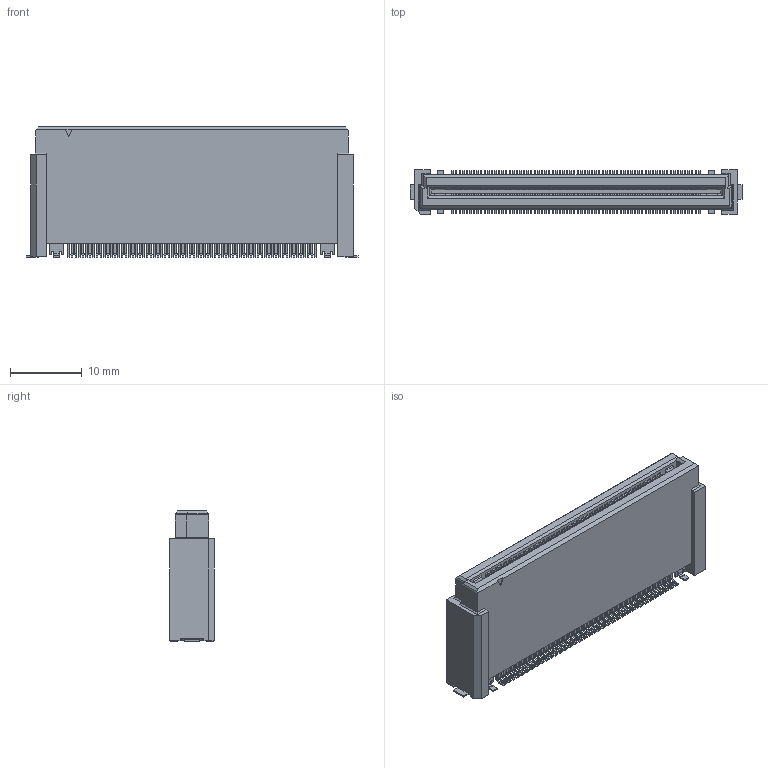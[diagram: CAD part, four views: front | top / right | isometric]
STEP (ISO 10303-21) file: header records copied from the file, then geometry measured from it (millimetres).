
FILE_DESCRIPTION(('Creo Elements/Direct Modeling STEP Export'),'2;1');
FILE_NAME('P3E818_DT10E-140S-20-T.stp','2024-03-12T13:35:49',(''),(''),'Creo Elements/Direct Modeling STEP processor for AP214 (Solid Model)','Creo Elements/Direct Modeling 20.6 25-Mar-2023 (C) Parametric Technology GmbH','');
FILE_SCHEMA(('AUTOMOTIVE_DESIGN { 1 0 10303 214 1 1 1 1 }'));
Products named in the file (2): P3E818_DT10E-140S-20-T
Assembly tree (1 placements, depth 2):
  P3E818_DT10E-140S-20-T
    P3E818_DT10E-140S-20-T
Bounding box: 46.4 x 6.2 x 18.18 mm (x, y, z)
Volume: 3395 mm3; surface area: 2951.8 mm2
Topology: 1 solids, 1 shells, 4355 faces, 12298 edges, 8092 vertices
Faces by surface type: plane 3447, cylinder 900, bspline 8
Entity records: 139241 total; most frequent: CARTESIAN_POINT 25205, ORIENTED_EDGE 24596, DIRECTION 22622, EDGE_CURVE 12298, VECTOR 9780, LINE 9780, VERTEX_POINT 8092, AXIS2_PLACEMENT_3D 6421
